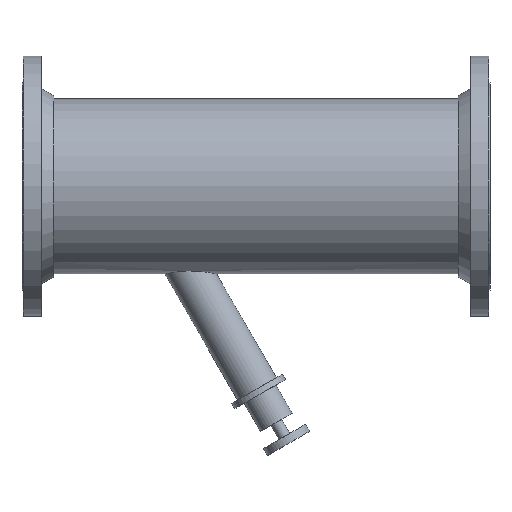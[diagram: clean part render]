
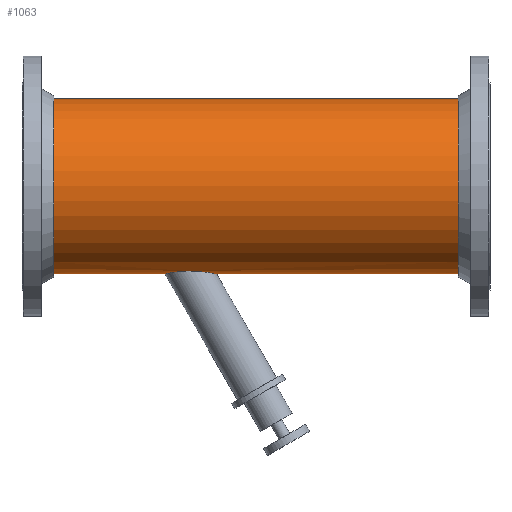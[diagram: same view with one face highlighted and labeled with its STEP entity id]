
A CAD part, top view. The second image highlights one B-rep face of the part: STEP entity #1063.
In plain terms, the highlighted cylindrical face has radius 136.525 mm (diameter 273.05 mm), a full revolution.
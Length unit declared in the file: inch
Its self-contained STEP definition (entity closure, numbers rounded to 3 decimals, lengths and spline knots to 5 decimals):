
#120=B_SPLINE_CURVE_WITH_KNOTS('',3,(#1673,#1674,#1675,#1676,#1677,#1678,
#1679,#1680,#1681,#1682,#1683,#1684,#1685,#1686,#1687,#1688,#1689,#1690,
#1691,#1692,#1693,#1694,#1695,#1696,#1697,#1698,#1699,#1700,#1701,#1702,
#1703,#1704,#1705,#1706),.UNSPECIFIED.,.F.,.F.,(4,2,2,2,2,2,2,2,2,2,2,2,
2,2,2,2,4),(5.88262,6.54446,7.2063,7.86815,
8.52999,9.3388,10.14761,10.95643,11.76524,
12.49493,13.22462,13.95431,14.68399,15.33598,
15.98797,16.63996,17.29195),.UNSPECIFIED.);
#121=B_SPLINE_CURVE_WITH_KNOTS('',3,(#1713,#1714,#1715,#1716,#1717,#1718,
#1719,#1720,#1721,#1722,#1723,#1724,#1725,#1726,#1727,#1728,#1729,#1730),
 .UNSPECIFIED.,.F.,.F.,(4,2,2,2,2,2,2,2,4),(17.29195,17.94394,
18.59592,19.24791,19.8999,20.62959,21.35928,
22.08897,22.81866),.UNSPECIFIED.);
#122=B_SPLINE_CURVE_WITH_KNOTS('',3,(#1731,#1732,#1733,#1734,#1735,#1736,
#1737,#1738,#1739,#1740,#1741,#1742,#1743,#1744,#1745,#1746,#1747,#1748),
 .UNSPECIFIED.,.F.,.F.,(4,2,2,2,2,2,2,2,4),(0.,0.80881,1.61762,
2.42644,3.23525,3.89709,4.55893,5.22078,
5.88262),.UNSPECIFIED.);
#124=FACE_OUTER_BOUND('',#174,.T.);
#174=EDGE_LOOP('',(#703,#704,#705,#706,#707,#708,#709,#710,#711,#712,#713));
#284=LINE('',#1671,#322);
#285=LINE('',#1708,#323);
#322=VECTOR('',#1310,5.375);
#323=VECTOR('',#1311,5.375);
#363=CIRCLE('',#1138,5.375);
#364=CIRCLE('',#1139,5.375);
#365=CIRCLE('',#1140,5.375);
#366=CIRCLE('',#1141,5.375);
#461=VERTEX_POINT('',#1667);
#462=VERTEX_POINT('',#1668);
#463=VERTEX_POINT('',#1670);
#464=VERTEX_POINT('',#1672);
#465=VERTEX_POINT('',#1707);
#466=VERTEX_POINT('',#1709);
#467=VERTEX_POINT('',#1712);
#563=EDGE_CURVE('',#461,#462,#363,.T.);
#564=EDGE_CURVE('',#462,#463,#284,.T.);
#565=EDGE_CURVE('',#463,#464,#120,.T.);
#566=EDGE_CURVE('',#464,#465,#285,.T.);
#567=EDGE_CURVE('',#465,#466,#364,.T.);
#568=EDGE_CURVE('',#466,#465,#365,.T.);
#569=EDGE_CURVE('',#464,#467,#121,.T.);
#570=EDGE_CURVE('',#467,#463,#122,.T.);
#571=EDGE_CURVE('',#462,#461,#366,.T.);
#703=ORIENTED_EDGE('',*,*,#563,.T.);
#704=ORIENTED_EDGE('',*,*,#564,.T.);
#705=ORIENTED_EDGE('',*,*,#565,.T.);
#706=ORIENTED_EDGE('',*,*,#566,.T.);
#707=ORIENTED_EDGE('',*,*,#567,.T.);
#708=ORIENTED_EDGE('',*,*,#568,.T.);
#709=ORIENTED_EDGE('',*,*,#566,.F.);
#710=ORIENTED_EDGE('',*,*,#569,.T.);
#711=ORIENTED_EDGE('',*,*,#570,.T.);
#712=ORIENTED_EDGE('',*,*,#564,.F.);
#713=ORIENTED_EDGE('',*,*,#571,.T.);
#976=CYLINDRICAL_SURFACE('',#1137,5.375);
#1063=ADVANCED_FACE('',(#124),#976,.T.);
#1137=AXIS2_PLACEMENT_3D('',#1666,#1306,#1307);
#1138=AXIS2_PLACEMENT_3D('',#1669,#1308,#1309);
#1139=AXIS2_PLACEMENT_3D('',#1710,#1312,#1313);
#1140=AXIS2_PLACEMENT_3D('',#1711,#1314,#1315);
#1141=AXIS2_PLACEMENT_3D('',#1749,#1316,#1317);
#1306=DIRECTION('center_axis',(1.,0.,0.));
#1307=DIRECTION('ref_axis',(0.,1.,0.));
#1308=DIRECTION('center_axis',(-1.,0.,0.));
#1309=DIRECTION('ref_axis',(0.,1.,0.));
#1310=DIRECTION('',(-1.,0.,0.));
#1311=DIRECTION('',(-1.,0.,0.));
#1312=DIRECTION('center_axis',(1.,0.,0.));
#1313=DIRECTION('ref_axis',(0.,1.,0.));
#1314=DIRECTION('center_axis',(1.,0.,0.));
#1315=DIRECTION('ref_axis',(0.,1.,0.));
#1316=DIRECTION('center_axis',(-1.,0.,0.));
#1317=DIRECTION('ref_axis',(0.,1.,0.));
#1666=CARTESIAN_POINT('Origin',(0.,0.,0.));
#1667=CARTESIAN_POINT('',(12.43,5.375,0.));
#1668=CARTESIAN_POINT('',(12.43,-5.375,0.));
#1669=CARTESIAN_POINT('Origin',(12.43,0.,0.));
#1670=CARTESIAN_POINT('',(-2.42539,-5.375,0.));
#1671=CARTESIAN_POINT('',(0.,-5.375,0.));
#1672=CARTESIAN_POINT('',(-5.60082,-5.375,0.));
#1673=CARTESIAN_POINT('Ctrl Pts',(-2.42539,-5.375,0.));
#1674=CARTESIAN_POINT('Ctrl Pts',(-2.42539,-5.375,-0.08686));
#1675=CARTESIAN_POINT('Ctrl Pts',(-2.4363,-5.37284,-0.17543));
#1676=CARTESIAN_POINT('Ctrl Pts',(-2.48021,-5.36435,-0.34924));
#1677=CARTESIAN_POINT('Ctrl Pts',(-2.51319,-5.35802,-0.43449));
#1678=CARTESIAN_POINT('Ctrl Pts',(-2.59752,-5.34247,-0.59596));
#1679=CARTESIAN_POINT('Ctrl Pts',(-2.64893,-5.33325,-0.67236));
#1680=CARTESIAN_POINT('Ctrl Pts',(-2.76397,-5.31371,-0.81244));
#1681=CARTESIAN_POINT('Ctrl Pts',(-2.82758,-5.30342,-0.87612));
#1682=CARTESIAN_POINT('Ctrl Pts',(-2.97317,-5.28145,-1.0009));
#1683=CARTESIAN_POINT('Ctrl Pts',(-3.06265,-5.26894,-1.06398));
#1684=CARTESIAN_POINT('Ctrl Pts',(-3.25501,-5.24542,-1.17447));
#1685=CARTESIAN_POINT('Ctrl Pts',(-3.35788,-5.23442,-1.2219));
#1686=CARTESIAN_POINT('Ctrl Pts',(-3.57057,-5.21599,-1.29831));
#1687=CARTESIAN_POINT('Ctrl Pts',(-3.68047,-5.20858,-1.32731));
#1688=CARTESIAN_POINT('Ctrl Pts',(-3.9003,-5.19865,-1.36566));
#1689=CARTESIAN_POINT('Ctrl Pts',(-4.01022,-5.19615,-1.375));
#1690=CARTESIAN_POINT('Ctrl Pts',(-4.21212,-5.19615,-1.375));
#1691=CARTESIAN_POINT('Ctrl Pts',(-4.3116,-5.19819,-1.36738));
#1692=CARTESIAN_POINT('Ctrl Pts',(-4.50997,-5.20693,-1.3337));
#1693=CARTESIAN_POINT('Ctrl Pts',(-4.60887,-5.21364,-1.30763));
#1694=CARTESIAN_POINT('Ctrl Pts',(-4.7986,-5.23092,-1.2367));
#1695=CARTESIAN_POINT('Ctrl Pts',(-4.8896,-5.2415,-1.19176));
#1696=CARTESIAN_POINT('Ctrl Pts',(-5.0575,-5.26452,-1.08554));
#1697=CARTESIAN_POINT('Ctrl Pts',(-5.13441,-5.27694,-1.02424));
#1698=CARTESIAN_POINT('Ctrl Pts',(-5.26261,-5.29979,-0.89807));
#1699=CARTESIAN_POINT('Ctrl Pts',(-5.31943,-5.31095,-0.83065));
#1700=CARTESIAN_POINT('Ctrl Pts',(-5.41947,-5.3319,-0.6834));
#1701=CARTESIAN_POINT('Ctrl Pts',(-5.46271,-5.34166,-0.60358));
#1702=CARTESIAN_POINT('Ctrl Pts',(-5.53208,-5.35788,-0.43672));
#1703=CARTESIAN_POINT('Ctrl Pts',(-5.55828,-5.36434,-0.34954));
#1704=CARTESIAN_POINT('Ctrl Pts',(-5.59265,-5.3729,-0.17396));
#1705=CARTESIAN_POINT('Ctrl Pts',(-5.60082,-5.375,-0.08556));
#1706=CARTESIAN_POINT('Ctrl Pts',(-5.60082,-5.375,0.));
#1707=CARTESIAN_POINT('',(-12.43,-5.375,0.));
#1708=CARTESIAN_POINT('',(0.,-5.375,0.));
#1709=CARTESIAN_POINT('',(-12.43,5.375,0.));
#1710=CARTESIAN_POINT('Origin',(-12.43,0.,0.));
#1711=CARTESIAN_POINT('Origin',(-12.43,0.,0.));
#1712=CARTESIAN_POINT('',(-4.11636,-5.19615,1.375));
#1713=CARTESIAN_POINT('Ctrl Pts',(-5.60082,-5.375,0.));
#1714=CARTESIAN_POINT('Ctrl Pts',(-5.60082,-5.375,0.08556));
#1715=CARTESIAN_POINT('Ctrl Pts',(-5.59265,-5.3729,0.17396));
#1716=CARTESIAN_POINT('Ctrl Pts',(-5.55828,-5.36434,0.34954));
#1717=CARTESIAN_POINT('Ctrl Pts',(-5.53208,-5.35788,0.43672));
#1718=CARTESIAN_POINT('Ctrl Pts',(-5.46271,-5.34166,0.60358));
#1719=CARTESIAN_POINT('Ctrl Pts',(-5.41947,-5.3319,0.6834));
#1720=CARTESIAN_POINT('Ctrl Pts',(-5.31943,-5.31095,0.83065));
#1721=CARTESIAN_POINT('Ctrl Pts',(-5.26261,-5.29979,0.89807));
#1722=CARTESIAN_POINT('Ctrl Pts',(-5.13441,-5.27694,1.02424));
#1723=CARTESIAN_POINT('Ctrl Pts',(-5.0575,-5.26452,1.08554));
#1724=CARTESIAN_POINT('Ctrl Pts',(-4.8896,-5.2415,1.19176));
#1725=CARTESIAN_POINT('Ctrl Pts',(-4.7986,-5.23092,1.2367));
#1726=CARTESIAN_POINT('Ctrl Pts',(-4.60887,-5.21364,1.30763));
#1727=CARTESIAN_POINT('Ctrl Pts',(-4.50997,-5.20693,1.3337));
#1728=CARTESIAN_POINT('Ctrl Pts',(-4.3116,-5.19819,1.36738));
#1729=CARTESIAN_POINT('Ctrl Pts',(-4.21212,-5.19615,1.375));
#1730=CARTESIAN_POINT('Ctrl Pts',(-4.11636,-5.19615,1.375));
#1731=CARTESIAN_POINT('Ctrl Pts',(-4.11636,-5.19615,1.375));
#1732=CARTESIAN_POINT('Ctrl Pts',(-4.01022,-5.19615,1.375));
#1733=CARTESIAN_POINT('Ctrl Pts',(-3.9003,-5.19865,1.36566));
#1734=CARTESIAN_POINT('Ctrl Pts',(-3.68047,-5.20858,1.32731));
#1735=CARTESIAN_POINT('Ctrl Pts',(-3.57057,-5.21599,1.29831));
#1736=CARTESIAN_POINT('Ctrl Pts',(-3.35788,-5.23442,1.2219));
#1737=CARTESIAN_POINT('Ctrl Pts',(-3.25501,-5.24542,1.17447));
#1738=CARTESIAN_POINT('Ctrl Pts',(-3.06265,-5.26894,1.06398));
#1739=CARTESIAN_POINT('Ctrl Pts',(-2.97317,-5.28145,1.0009));
#1740=CARTESIAN_POINT('Ctrl Pts',(-2.82758,-5.30342,0.87612));
#1741=CARTESIAN_POINT('Ctrl Pts',(-2.76397,-5.31371,0.81244));
#1742=CARTESIAN_POINT('Ctrl Pts',(-2.64893,-5.33325,0.67236));
#1743=CARTESIAN_POINT('Ctrl Pts',(-2.59752,-5.34247,0.59596));
#1744=CARTESIAN_POINT('Ctrl Pts',(-2.51319,-5.35802,0.43449));
#1745=CARTESIAN_POINT('Ctrl Pts',(-2.48021,-5.36435,0.34924));
#1746=CARTESIAN_POINT('Ctrl Pts',(-2.4363,-5.37284,0.17543));
#1747=CARTESIAN_POINT('Ctrl Pts',(-2.42539,-5.375,0.08686));
#1748=CARTESIAN_POINT('Ctrl Pts',(-2.42539,-5.375,0.));
#1749=CARTESIAN_POINT('Origin',(12.43,0.,0.));
